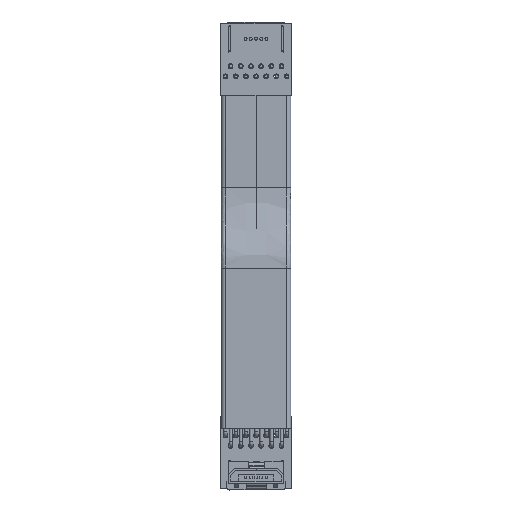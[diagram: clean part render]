
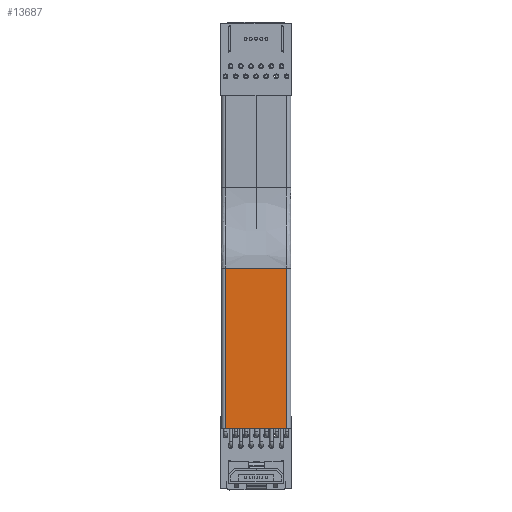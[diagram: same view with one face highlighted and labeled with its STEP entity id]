
A CAD part, top view. The second image highlights one B-rep face of the part: STEP entity #13687.
In plain terms, the highlighted planar face has unit normal (0, 0, 1) as drawn and (0, 0, -1) by its records, which use the part's own axes.
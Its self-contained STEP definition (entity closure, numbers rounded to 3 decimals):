
#11992 = VERTEX_POINT('',#11993);
#11993 = CARTESIAN_POINT('',(0.569,23.023,
    -2.457));
#12005 = EDGE_CURVE('',#12006,#11992,#12008,.T.);
#12006 = VERTEX_POINT('',#12007);
#12007 = CARTESIAN_POINT('',(8.189,23.023,
    -2.457));
#12008 = LINE('',#12009,#12010);
#12009 = CARTESIAN_POINT('',(4.379,23.023,
    -2.457));
#12010 = VECTOR('',#12011,1.);
#12011 = DIRECTION('',(-1.,0.,0.));
#13613 = VERTEX_POINT('',#13614);
#13614 = CARTESIAN_POINT('',(0.569,43.,-2.457));
#13636 = VERTEX_POINT('',#13637);
#13637 = CARTESIAN_POINT('',(8.189,43.,-2.457));
#13647 = EDGE_CURVE('',#13636,#13613,#13648,.T.);
#13648 = LINE('',#13649,#13650);
#13649 = CARTESIAN_POINT('',(4.379,43.,-2.457));
#13650 = VECTOR('',#13651,1.);
#13651 = DIRECTION('',(-1.,0.,0.));
#13669 = EDGE_CURVE('',#11992,#13613,#13670,.T.);
#13670 = LINE('',#13671,#13672);
#13671 = CARTESIAN_POINT('',(0.569,33.011,
    -2.457));
#13672 = VECTOR('',#13673,1.);
#13673 = DIRECTION('',(0.,1.,0.));
#13687 = ADVANCED_FACE('',(#13688),#13699,.T.);
#13688 = FACE_BOUND('',#13689,.T.);
#13689 = EDGE_LOOP('',(#13690,#13691,#13692,#13693));
#13690 = ORIENTED_EDGE('',*,*,#12005,.T.);
#13691 = ORIENTED_EDGE('',*,*,#13669,.T.);
#13692 = ORIENTED_EDGE('',*,*,#13647,.F.);
#13693 = ORIENTED_EDGE('',*,*,#13694,.F.);
#13694 = EDGE_CURVE('',#12006,#13636,#13695,.T.);
#13695 = LINE('',#13696,#13697);
#13696 = CARTESIAN_POINT('',(8.189,33.011,
    -2.457));
#13697 = VECTOR('',#13698,1.);
#13698 = DIRECTION('',(0.,1.,0.));
#13699 = PLANE('',#13700);
#13700 = AXIS2_PLACEMENT_3D('',#13701,#13702,#13703);
#13701 = CARTESIAN_POINT('',(8.189,23.023,
    -2.457));
#13702 = DIRECTION('',(0.,0.,-1.));
#13703 = DIRECTION('',(-1.,0.,0.));
